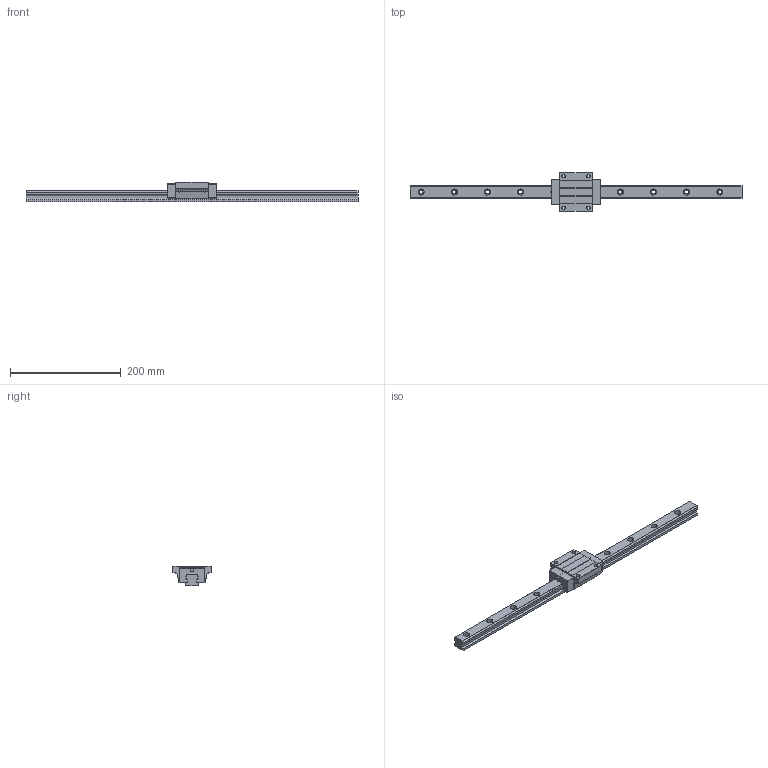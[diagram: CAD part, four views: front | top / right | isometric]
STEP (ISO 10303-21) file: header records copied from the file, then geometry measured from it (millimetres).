
FILE_DESCRIPTION (( 'STEP AP203' ), '1' );
FILE_NAME ('TRH25FN-ZN-§ï.STEP', '2023-08-29T08:21:26', ( '' ), ( '' ), 'SwSTEP 2.0', 'SolidWorks 2022', '' );
FILE_SCHEMA (( 'CONFIG_CONTROL_DESIGN' ));
Length unit declared in the file: millimetre
Products named in the file (1): TRH25FN-ZN-改
Bounding box: 600 x 70 x 36 mm (x, y, z)
Volume: 343832.6 mm3; surface area: 78732.5 mm2
Topology: 1 solids, 1 shells, 199 faces, 554 edges, 362 vertices
Faces by surface type: cylinder 108, plane 87, sphere 4
Entity records: 6851 total; most frequent: CARTESIAN_POINT 1476, DIRECTION 1136, ORIENTED_EDGE 1100, EDGE_CURVE 550, AXIS2_PLACEMENT_3D 406, VERTEX_POINT 362, LINE 324, VECTOR 324
